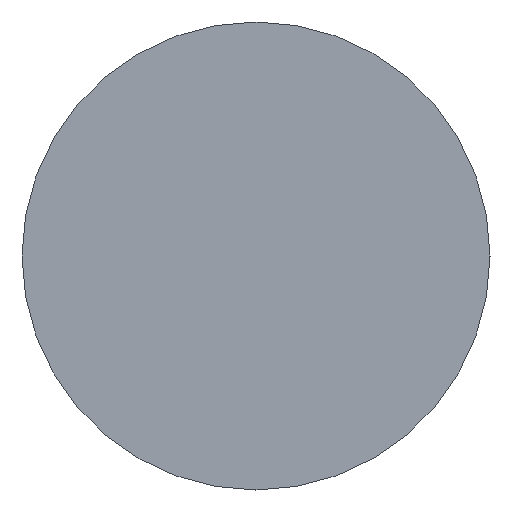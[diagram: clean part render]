
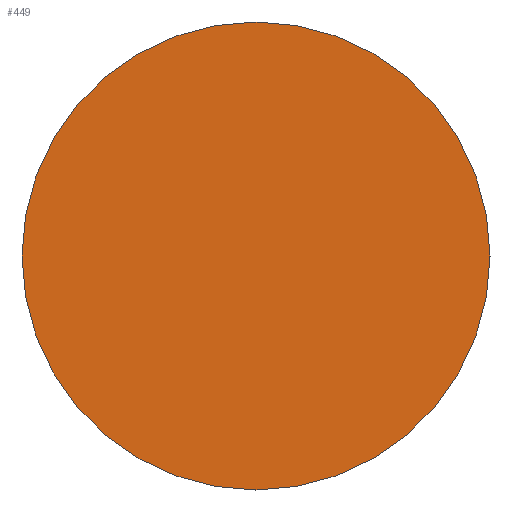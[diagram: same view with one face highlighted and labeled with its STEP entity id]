
A CAD part, left-side view. The second image highlights one B-rep face of the part: STEP entity #449.
In plain terms, the highlighted planar face has unit normal (-1, 0, 0).
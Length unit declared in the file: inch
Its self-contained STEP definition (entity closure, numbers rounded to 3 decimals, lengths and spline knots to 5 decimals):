
#46 = DIRECTION ( 'NONE',  ( 0., 0., 1. ) ) ;
#49 = VERTEX_POINT ( 'NONE', #214 ) ;
#112 = ORIENTED_EDGE ( 'NONE', *, *, #456, .T. ) ;
#166 = CARTESIAN_POINT ( 'NONE',  ( -6., 0., 0.375 ) ) ;
#207 = DIRECTION ( 'NONE',  ( 0., 0., -1. ) ) ;
#214 = CARTESIAN_POINT ( 'NONE',  ( -6., 0., -0.375 ) ) ;
#232 = EDGE_CURVE ( 'NONE', #49, #458, #450, .T. ) ;
#238 = ORIENTED_EDGE ( 'NONE', *, *, #232, .T. ) ;
#275 = CIRCLE ( 'NONE', #500, 0.375 ) ;
#284 = FACE_OUTER_BOUND ( 'NONE', #347, .T. ) ;
#310 = PLANE ( 'NONE',  #414 ) ;
#347 = EDGE_LOOP ( 'NONE', ( #112, #238 ) ) ;
#360 = DIRECTION ( 'NONE',  ( -1., 0., 0. ) ) ;
#396 = AXIS2_PLACEMENT_3D ( 'NONE', #420, #495, #460 ) ;
#403 = CARTESIAN_POINT ( 'NONE',  ( -6., 0., 0. ) ) ;
#414 = AXIS2_PLACEMENT_3D ( 'NONE', #441, #480, #207 ) ;
#420 = CARTESIAN_POINT ( 'NONE',  ( -6., 0., 0. ) ) ;
#441 = CARTESIAN_POINT ( 'NONE',  ( -6., 0.375, 0. ) ) ;
#449 = ADVANCED_FACE ( 'NONE', ( #284 ), #310, .F. ) ;
#450 = CIRCLE ( 'NONE', #396, 0.375 ) ;
#456 = EDGE_CURVE ( 'NONE', #458, #49, #275, .T. ) ;
#458 = VERTEX_POINT ( 'NONE', #166 ) ;
#460 = DIRECTION ( 'NONE',  ( 0., 0., 1. ) ) ;
#480 = DIRECTION ( 'NONE',  ( 1., 0., 0. ) ) ;
#495 = DIRECTION ( 'NONE',  ( -1., 0., 0. ) ) ;
#500 = AXIS2_PLACEMENT_3D ( 'NONE', #403, #360, #46 ) ;
